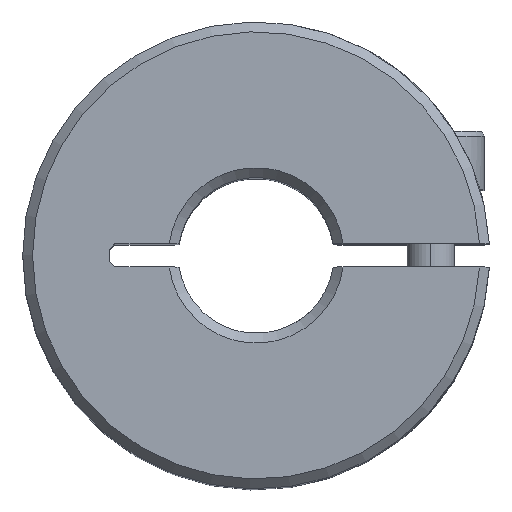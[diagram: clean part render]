
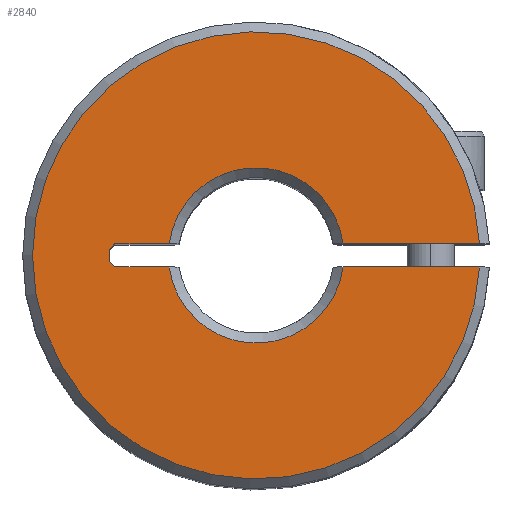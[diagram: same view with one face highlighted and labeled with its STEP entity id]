
A CAD part, top view. The second image highlights one B-rep face of the part: STEP entity #2840.
In plain terms, the highlighted planar face has unit normal (0, 0, 1).
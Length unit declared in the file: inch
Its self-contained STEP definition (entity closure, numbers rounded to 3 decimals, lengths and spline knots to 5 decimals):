
#712=DIRECTION('',(-0.707,0.707,0.));
#713=VECTOR('',#712,0.01657);
#714=CARTESIAN_POINT('',(-0.28572,-0.02344,0.68898));
#715=LINE('',#714,#713);
#716=DIRECTION('',(-1.,0.,0.));
#717=VECTOR('',#716,0.27591);
#718=CARTESIAN_POINT('',(0.45183,-0.02344,0.68898));
#719=LINE('',#718,#717);
#720=CARTESIAN_POINT('',(0.,0.,0.68898));
#721=DIRECTION('',(0.,0.,1.));
#722=DIRECTION('',(0.999,0.052,0.));
#723=AXIS2_PLACEMENT_3D('',#720,#721,#722);
#725=DIRECTION('',(1.,0.,0.));
#726=VECTOR('',#725,0.27591);
#727=CARTESIAN_POINT('',(0.17593,0.02344,0.68898));
#728=LINE('',#727,#726);
#729=CARTESIAN_POINT('',(0.,0.,0.68898));
#730=DIRECTION('',(0.,0.,-1.));
#731=DIRECTION('',(-0.991,0.132,0.));
#732=AXIS2_PLACEMENT_3D('',#729,#730,#731);
#734=DIRECTION('',(1.,0.,0.));
#735=VECTOR('',#734,0.1098);
#736=CARTESIAN_POINT('',(-0.28572,0.02344,0.68898));
#737=LINE('',#736,#735);
#738=DIRECTION('',(0.707,0.707,0.));
#739=VECTOR('',#738,0.01657);
#740=CARTESIAN_POINT('',(-0.29744,0.01172,0.68898));
#741=LINE('',#740,#739);
#742=DIRECTION('',(0.,1.,0.));
#743=VECTOR('',#742,0.02344);
#744=CARTESIAN_POINT('',(-0.29744,-0.01172,0.68898));
#745=LINE('',#744,#743);
#779=DIRECTION('',(1.,0.,0.));
#780=VECTOR('',#779,0.1098);
#781=CARTESIAN_POINT('',(-0.28572,-0.02344,0.68898));
#782=LINE('',#781,#780);
#1158=CARTESIAN_POINT('',(0.,0.,0.68898));
#1159=DIRECTION('',(0.,0.,-1.));
#1160=DIRECTION('',(0.991,-0.132,0.));
#1161=AXIS2_PLACEMENT_3D('',#1158,#1159,#1160);
#1168=CARTESIAN_POINT('',(-0.17593,-0.02344,0.68898));
#1175=CARTESIAN_POINT('',(0.17593,-0.02344,0.68898));
#1802=VERTEX_POINT('',#1168);
#1805=VERTEX_POINT('',#1175);
#1806=CARTESIAN_POINT('',(-0.28572,-0.02344,0.68898));
#1807=CARTESIAN_POINT('',(-0.29744,-0.01172,0.68898));
#1808=VERTEX_POINT('',#1806);
#1809=VERTEX_POINT('',#1807);
#1810=CARTESIAN_POINT('',(0.45183,-0.02344,0.68898));
#1811=VERTEX_POINT('',#1810);
#1812=CARTESIAN_POINT('',(0.17593,0.02344,0.68898));
#1813=CARTESIAN_POINT('',(0.45183,0.02344,0.68898));
#1814=VERTEX_POINT('',#1812);
#1815=VERTEX_POINT('',#1813);
#1816=CARTESIAN_POINT('',(-0.17593,0.02344,0.68898));
#1817=VERTEX_POINT('',#1816);
#1818=CARTESIAN_POINT('',(-0.28572,0.02344,0.68898));
#1819=VERTEX_POINT('',#1818);
#1820=CARTESIAN_POINT('',(-0.29744,0.01172,0.68898));
#1821=VERTEX_POINT('',#1820);
#2814=CARTESIAN_POINT('',(0.,0.,0.68898));
#2815=DIRECTION('',(0.,0.,1.));
#2816=DIRECTION('',(1.,0.,0.));
#2817=AXIS2_PLACEMENT_3D('',#2814,#2815,#2816);
#2818=PLANE('',#2817);
#2820=ORIENTED_EDGE('',*,*,#2819,.F.);
#2822=ORIENTED_EDGE('',*,*,#2821,.T.);
#2824=ORIENTED_EDGE('',*,*,#2823,.F.);
#2826=ORIENTED_EDGE('',*,*,#2825,.F.);
#2828=ORIENTED_EDGE('',*,*,#2827,.F.);
#2830=ORIENTED_EDGE('',*,*,#2829,.F.);
#2832=ORIENTED_EDGE('',*,*,#2831,.F.);
#2833=ORIENTED_EDGE('',*,*,#2793,.F.);
#2835=ORIENTED_EDGE('',*,*,#2834,.F.);
#2837=ORIENTED_EDGE('',*,*,#2836,.F.);
#2838=EDGE_LOOP('',(#2820,#2822,#2824,#2826,#2828,#2830,#2832,#2833,#2835,
#2837));
#2839=FACE_OUTER_BOUND('',#2838,.F.);
#724=CIRCLE('',#723,0.45244);
#733=CIRCLE('',#732,0.17748);
#1162=CIRCLE('',#1161,0.17748);
#2793=EDGE_CURVE('',#1819,#1817,#737,.T.);
#2819=EDGE_CURVE('',#1808,#1809,#715,.T.);
#2821=EDGE_CURVE('',#1808,#1802,#782,.T.);
#2823=EDGE_CURVE('',#1805,#1802,#1162,.T.);
#2825=EDGE_CURVE('',#1811,#1805,#719,.T.);
#2827=EDGE_CURVE('',#1815,#1811,#724,.T.);
#2829=EDGE_CURVE('',#1814,#1815,#728,.T.);
#2831=EDGE_CURVE('',#1817,#1814,#733,.T.);
#2834=EDGE_CURVE('',#1821,#1819,#741,.T.);
#2836=EDGE_CURVE('',#1809,#1821,#745,.T.);
#2840=ADVANCED_FACE('',(#2839),#2818,.T.);
